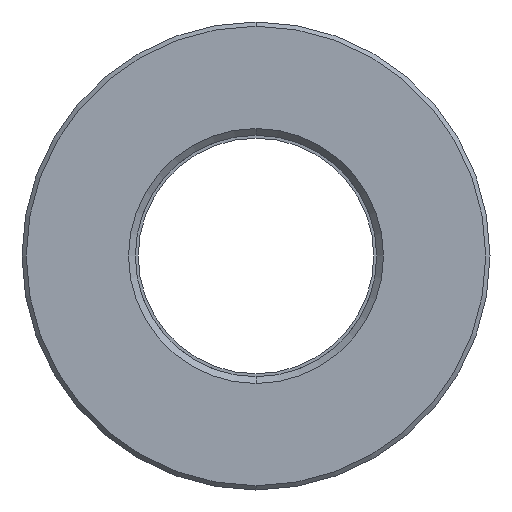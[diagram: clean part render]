
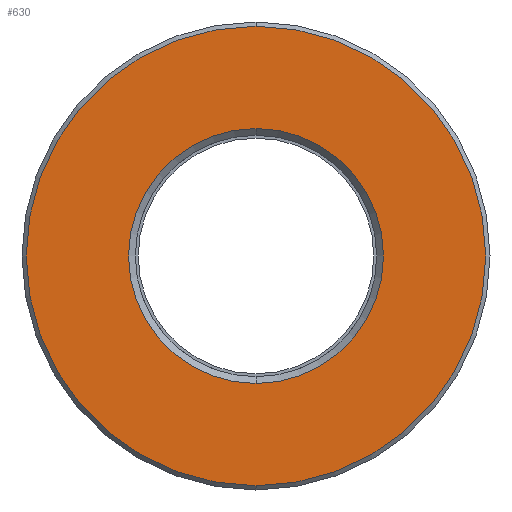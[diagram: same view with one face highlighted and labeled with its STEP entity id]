
A CAD part, front view. The second image highlights one B-rep face of the part: STEP entity #630.
In plain terms, the highlighted planar face has unit normal (0, -1, 0).
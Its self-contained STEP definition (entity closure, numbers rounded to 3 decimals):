
#105=CARTESIAN_POINT('',(0.,-22.25,0.));
#106=DIRECTION('',(0.,-1.,0.));
#107=DIRECTION('',(0.,0.,1.));
#108=AXIS2_PLACEMENT_3D('',#105,#106,#107);
#110=CARTESIAN_POINT('',(0.,-22.25,0.));
#111=DIRECTION('',(0.,1.,0.));
#112=DIRECTION('',(0.,0.,1.));
#113=AXIS2_PLACEMENT_3D('',#110,#111,#112);
#115=CARTESIAN_POINT('',(0.,-22.25,0.));
#116=DIRECTION('',(0.,1.,0.));
#117=DIRECTION('',(0.,0.,1.));
#118=AXIS2_PLACEMENT_3D('',#115,#116,#117);
#128=CARTESIAN_POINT('',(0.,-22.25,0.));
#129=DIRECTION('',(0.,-1.,0.));
#130=DIRECTION('',(0.,0.,1.));
#131=AXIS2_PLACEMENT_3D('',#128,#129,#130);
#391=CARTESIAN_POINT('',(0.,-22.25,81.));
#392=VERTEX_POINT('',#391);
#393=CARTESIAN_POINT('',(0.,-22.25,44.95));
#395=VERTEX_POINT('',#393);
#407=CARTESIAN_POINT('',(0.,-22.25,-81.));
#408=VERTEX_POINT('',#407);
#409=CARTESIAN_POINT('',(0.,-22.25,-44.95));
#411=VERTEX_POINT('',#409);
#615=CARTESIAN_POINT('',(0.,-22.25,0.));
#616=DIRECTION('',(0.,1.,0.));
#617=DIRECTION('',(0.,0.,-1.));
#618=AXIS2_PLACEMENT_3D('',#615,#616,#617);
#619=PLANE('',#618);
#620=ORIENTED_EDGE('',*,*,#608,.F.);
#621=ORIENTED_EDGE('',*,*,#597,.T.);
#622=EDGE_LOOP('',(#620,#621));
#623=FACE_OUTER_BOUND('',#622,.F.);
#625=ORIENTED_EDGE('',*,*,#624,.F.);
#627=ORIENTED_EDGE('',*,*,#626,.T.);
#628=EDGE_LOOP('',(#625,#627));
#629=FACE_BOUND('',#628,.F.);
#630=ADVANCED_FACE('',(#623,#629),#619,.F.);
#109=CIRCLE('',#108,81.);
#114=CIRCLE('',#113,81.);
#119=CIRCLE('',#118,44.95);
#132=CIRCLE('',#131,44.95);
#597=EDGE_CURVE('',#392,#408,#114,.T.);
#608=EDGE_CURVE('',#392,#408,#109,.T.);
#624=EDGE_CURVE('',#395,#411,#119,.T.);
#626=EDGE_CURVE('',#395,#411,#132,.T.);
